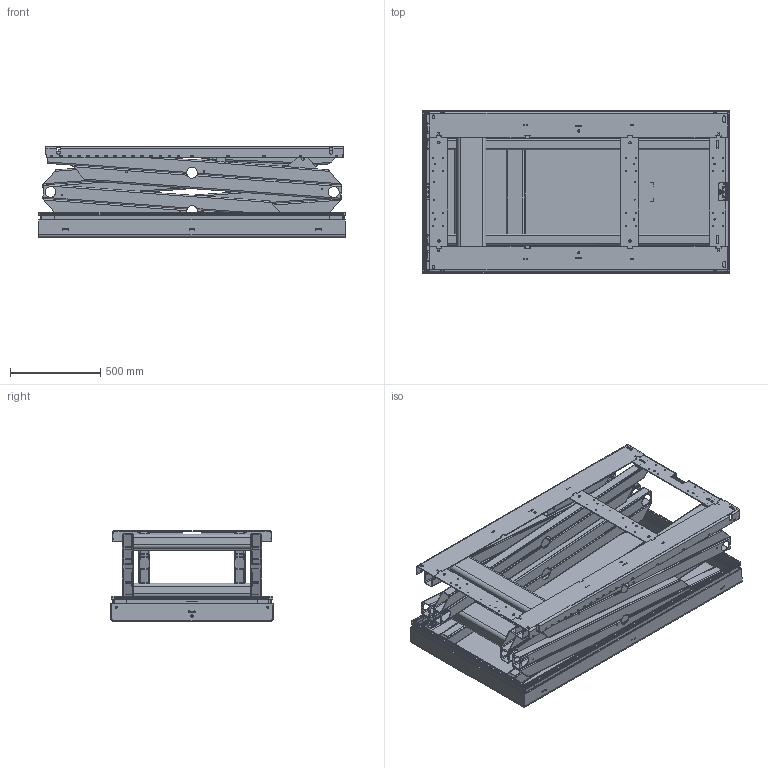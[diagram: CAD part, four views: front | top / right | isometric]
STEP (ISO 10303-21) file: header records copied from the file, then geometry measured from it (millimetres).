
FILE_DESCRIPTION(/* description */ ('Plate Base frame'),/* implementation_level */ '2;1');
FILE_NAME(/* name */ '\\EDMOFILE01\Users$\JOHSO\Desktop\STP\33510_Closed-Height.stp',/* time_stamp */ '2016-05-24T08:11:26+02:00',/* author */ ('JOHSO'),/* organization */ (''),/* preprocessor_version */ 'ST-DEVELOPER v15.6',/* originating_system */ 'Autodesk Inventor 2015',/* authorisation */ '');
FILE_SCHEMA (('AUTOMOTIVE_DESIGN { 1 0 10303 214 3 1 1 }'));
Products named in the file (43): 35871-1; 35871-2; 35871-3; 35871-4; 45259; 33519; Copy of ISO 4019 - 80x60x4 - 1525; Copy of ISO 4019 - 80x60x4 - 1635; 33516; 33512; Copy of ISO 4019 - 80x60x4 - 1495; Copy of ISO 4019 - 80x60x4 - 1635_1; 33515; Copy of ISO 4019 - 160x80x8 - 650; 35435-3; 35684-2; 33511; Copy of ISO 4019 - 80x60x4 - 1635_2; Copy of ISO 4019 - 80x60x4 - 1335; 33517; 33513; Copy of ISO 4019 - 80x60x4 - 1635_3; Copy of ISO 4019 - 80x60x4 - 1335_1; 33518; Copy of ISO 4019 - 100x100x5 - 468; 82091-36; 33514; 33142-1; 43239; 45387; 85955; 33181; 42289-853; 42289-1673; 42330; 42331; 33990; 43476; 43481; ISO 4032 - M8ISO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
Assembly tree (87 placements, depth 4):
  33510_TEMP
    33519
      35871-1
      35871-2  x2
      35871-3
      35871-4
      45259  x2
    33512
      33516  x2
        Copy of ISO 4019 - 80x60x4 - 1525
        Copy of ISO 4019 - 80x60x4 - 1635
    33511
      33515  x2
        Copy of ISO 4019 - 80x60x4 - 1495
        Copy of ISO 4019 - 80x60x4 - 1635_1
      Copy of ISO 4019 - 160x80x8 - 650
      35435-3  x4
      35684-2  x2
    33513
      33517  x2
        Copy of ISO 4019 - 80x60x4 - 1635_2
        Copy of ISO 4019 - 80x60x4 - 1335
      Copy of ISO 4019 - 160x80x8 - 650
    33514
      33518  x2
        Copy of ISO 4019 - 80x60x4 - 1635_3
        Copy of ISO 4019 - 80x60x4 - 1335_1
      Copy of ISO 4019 - 100x100x5 - 468
      82091-36  x2
    33181
      33142-1
      43239  x2
      45259  x2
      45387  x8
      85955
    31766-1700x900
      42289-853  x2
      42289-1673  x2
      42330  x6
      42331  x4
      33990  x2
      43476  x4
      43481  x6
      ISO 4032 - M8ISO  x4
    35684-1  x2
Bounding box: 1700 x 900 x 500 mm (x, y, z)
Volume: 47406866.9 mm3; surface area: 21177491.3 mm2
Topology: 80 solids, 88 shells, 5410 faces, 15088 edges, 9868 vertices
Faces by surface type: plane 2698, cylinder 2002, bspline 500, cone 90, torus 72, sphere 48
Full cylindrical faces by diameter (mm): 0.474 x2, 1 x4, 3 x4, 3.141 x4, 3.2 x4, 4 x16, 4.3 x4, 4.9 x2, 5 x4, 5.2 x6, 5.3 x2, 5.55 x4, 6.647 x4, 7.3 x4, 7.4 x54, 7.6 x4, 8 x8, 8.5 x6, 10 x10, 10.3 x4, 10.481 x4, 10.5 x6, 11 x2, 12.5 x2, 13 x6, 13.835 x5, 14.2 x16, 15 x4, 16 x8, 18.8 x2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
Entity records: 102966 total; most frequent: CARTESIAN_POINT 25918, ORIENTED_EDGE 15802, DIRECTION 15075, EDGE_CURVE 7895, VERTEX_POINT 5288, AXIS2_PLACEMENT_3D 5133, LINE 4809, VECTOR 4809
